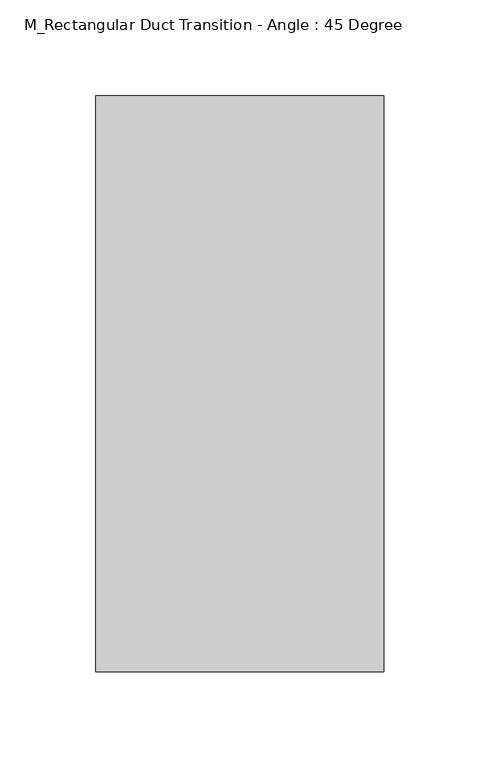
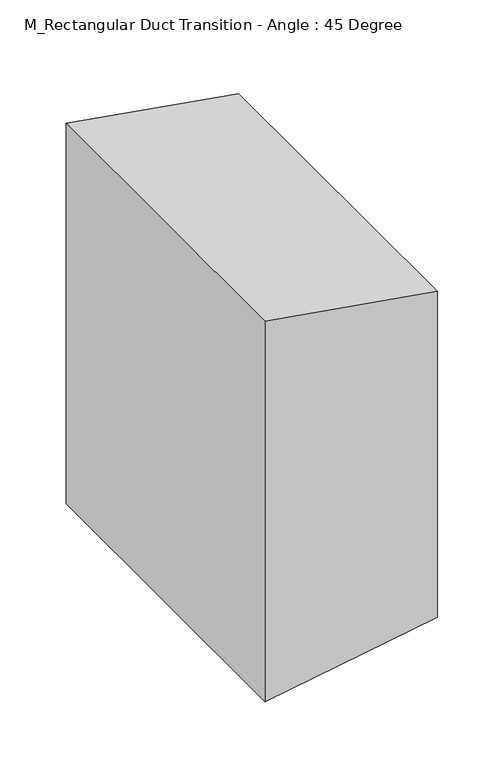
"""IFC4 building model written with IfcOpenShell, lengths in millimetres: duct fitting geometry, M_Rectangular Duct Transition - Angle : 45 Degree."""

from ifc_helpers import new_model, si_unit, frame, origin, place, context, project, spatial, polyline, outline, extrude, source, transform, mapped, element, save


def m_rectangular_duct_transition_angle_45_degree_b3017734(model_context):
    return source(origin(), model_context, "Body", "SweptSolid", [
        extrude(outline(polyline([(-175.0, 0.0), (175.0, 0.0), (150.0, -150.0), (-150.0, -150.0), (-175.0, 0.0)])), frame((0.0, -150.0, 0.0), z_axis=(-1.3293321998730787e-12, 1.0, 0.0), x_axis=(0.0, 0.0, -1.0)), (0.0, 0.0, 1.0), 300.0),
        extrude(outline(polyline([(175.0, 0.0), (-175.0, 0.0), (-150.0, 150.0), (150.0, 150.0), (175.0, 0.0)])), frame((0.0, -150.0, 0.0), z_axis=(0.0, 1.0, 0.0), x_axis=(0.0, 0.0, 1.0)), (0.0, 0.0, 1.0), 300.0),
        extrude(outline(polyline([(175.0, 0.0), (-175.0, 0.0), (-150.0, 150.0), (150.0, 150.0), (175.0, 0.0)])), frame((0.0, -150.0, 0.0), z_axis=(0.0, 1.0, 0.0), x_axis=(0.0, 0.0, 1.0)), (0.0, 0.0, 1.0), 300.0),
    ])


if __name__ == "__main__":
    model = new_model("IFC4")
    model_context = context("Model", 3, world=origin())
    ifc_project = project(units=[si_unit("LENGTHUNIT", "METRE", prefix="MILLI")], contexts=[model_context])
    site = spatial("IfcSite", under=ifc_project)
    building = spatial("IfcBuilding", under=site)
    placement = place(None, origin())
    m_rectangular_duct_transition_angle_45_degree_shape = m_rectangular_duct_transition_angle_45_degree_b3017734(model_context)
    element("IfcDuctFitting", 1, ObjectType="M_Rectangular Duct Transition - Angle : 45 Degree", at=placement, inside=building, context=model_context, shape_type="MappedRepresentation", body=[
        mapped(m_rectangular_duct_transition_angle_45_degree_shape, transform((0.0, 0.0, 0.0), x_axis=(1.0, 0.0, 0.0), y_axis=(0.0, 1.0, 0.0), z_axis=(0.0, 0.0, 1.0))),
    ])
    save(model, "model.ifc")
